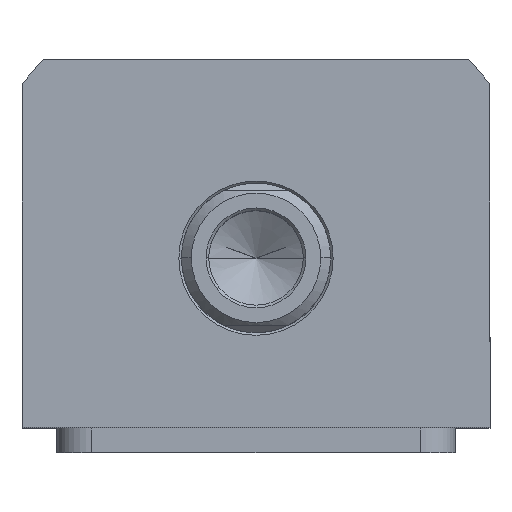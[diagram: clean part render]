
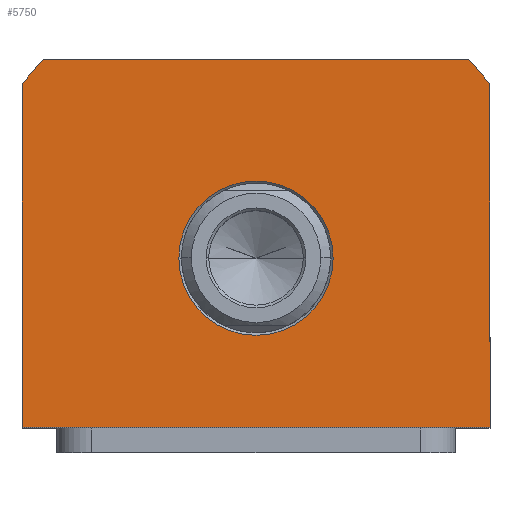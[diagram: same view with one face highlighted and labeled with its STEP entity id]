
A CAD part, top view. The second image highlights one B-rep face of the part: STEP entity #5750.
In plain terms, the highlighted planar face has unit normal (0, 0, 1).
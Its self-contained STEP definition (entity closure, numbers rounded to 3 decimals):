
#26 = ORIENTED_EDGE ( 'NONE', *, *, #6815, .T. ) ;
#76 = AXIS2_PLACEMENT_3D ( 'NONE', #6188, #9987, #8076 ) ;
#110 = EDGE_CURVE ( 'NONE', #7817, #1205, #3073, .T. ) ;
#290 = DIRECTION ( 'NONE',  ( 0., 0., 1. ) ) ;
#314 = EDGE_CURVE ( 'NONE', #504, #3170, #4360, .T. ) ;
#442 = CARTESIAN_POINT ( 'NONE',  ( 0., 0., 50. ) ) ;
#471 = DIRECTION ( 'NONE',  ( 0., -1., 0. ) ) ;
#504 = VERTEX_POINT ( 'NONE', #7616 ) ;
#796 = DIRECTION ( 'NONE',  ( -1., 0., 0. ) ) ;
#1163 = LINE ( 'NONE', #11448, #2314 ) ;
#1205 = VERTEX_POINT ( 'NONE', #10555 ) ;
#1218 = EDGE_CURVE ( 'NONE', #3412, #10783, #1163, .T. ) ;
#1235 = EDGE_CURVE ( 'NONE', #1205, #3412, #11183, .T. ) ;
#1373 = DIRECTION ( 'NONE',  ( 0., 0., 1. ) ) ;
#1384 = VECTOR ( 'NONE', #5519, 1000. ) ;
#1562 = EDGE_CURVE ( 'NONE', #9453, #7817, #7220, .T. ) ;
#2236 = LINE ( 'NONE', #11406, #3990 ) ;
#2314 = VECTOR ( 'NONE', #471, 1000. ) ;
#2913 = CARTESIAN_POINT ( 'NONE',  ( 15.5, 0., 50. ) ) ;
#3073 = LINE ( 'NONE', #4617, #10388 ) ;
#3170 = VERTEX_POINT ( 'NONE', #2913 ) ;
#3338 = CARTESIAN_POINT ( 'NONE',  ( 0., 0., 50. ) ) ;
#3412 = VERTEX_POINT ( 'NONE', #10550 ) ;
#3841 = LINE ( 'NONE', #10945, #1384 ) ;
#3867 = AXIS2_PLACEMENT_3D ( 'NONE', #3338, #8805, #10647 ) ;
#3895 = DIRECTION ( 'NONE',  ( 1., 0., 0. ) ) ;
#3908 = ORIENTED_EDGE ( 'NONE', *, *, #1218, .T. ) ;
#3932 = CARTESIAN_POINT ( 'NONE',  ( 47., -34., 50. ) ) ;
#3933 = AXIS2_PLACEMENT_3D ( 'NONE', #7568, #290, #3895 ) ;
#3971 = ORIENTED_EDGE ( 'NONE', *, *, #1235, .T. ) ;
#3977 = ORIENTED_EDGE ( 'NONE', *, *, #1562, .T. ) ;
#3990 = VECTOR ( 'NONE', #8743, 1000. ) ;
#4360 = CIRCLE ( 'NONE', #7759, 15.5 ) ;
#4570 = CIRCLE ( 'NONE', #3867, 15.5 ) ;
#4583 = AXIS2_PLACEMENT_3D ( 'NONE', #442, #1373, #8870 ) ;
#4617 = CARTESIAN_POINT ( 'NONE',  ( -42.688, 40., 50. ) ) ;
#5205 = EDGE_LOOP ( 'NONE', ( #9219, #10139 ) ) ;
#5519 = DIRECTION ( 'NONE',  ( 0., 1., 0. ) ) ;
#5520 = CARTESIAN_POINT ( 'NONE',  ( 47., 34.832, 50. ) ) ;
#5583 = CARTESIAN_POINT ( 'NONE',  ( 42.688, 40., 50. ) ) ;
#5750 = ADVANCED_FACE ( 'NONE', ( #10460, #7611 ), #10032, .T. ) ;
#5911 = EDGE_CURVE ( 'NONE', #3170, #504, #4570, .T. ) ;
#6188 = CARTESIAN_POINT ( 'NONE',  ( 0., 0., 50. ) ) ;
#6395 = VERTEX_POINT ( 'NONE', #3932 ) ;
#6515 = CARTESIAN_POINT ( 'NONE',  ( 0., 0., 50. ) ) ;
#6815 = EDGE_CURVE ( 'NONE', #6395, #9453, #3841, .T. ) ;
#7220 = CIRCLE ( 'NONE', #4583, 58.5 ) ;
#7568 = CARTESIAN_POINT ( 'NONE',  ( 0., 0., 50. ) ) ;
#7611 = FACE_OUTER_BOUND ( 'NONE', #9979, .T. ) ;
#7616 = CARTESIAN_POINT ( 'NONE',  ( -15.5, 0., 50. ) ) ;
#7759 = AXIS2_PLACEMENT_3D ( 'NONE', #6515, #8378, #9293 ) ;
#7817 = VERTEX_POINT ( 'NONE', #5583 ) ;
#8076 = DIRECTION ( 'NONE',  ( 1., 0., 0. ) ) ;
#8180 = EDGE_CURVE ( 'NONE', #10783, #6395, #2236, .T. ) ;
#8378 = DIRECTION ( 'NONE',  ( 0., 0., -1. ) ) ;
#8674 = ORIENTED_EDGE ( 'NONE', *, *, #8180, .T. ) ;
#8743 = DIRECTION ( 'NONE',  ( 1., 0., 0. ) ) ;
#8805 = DIRECTION ( 'NONE',  ( 0., 0., -1. ) ) ;
#8870 = DIRECTION ( 'NONE',  ( 1., 0., 0. ) ) ;
#9219 = ORIENTED_EDGE ( 'NONE', *, *, #5911, .T. ) ;
#9293 = DIRECTION ( 'NONE',  ( 1., 0., 0. ) ) ;
#9453 = VERTEX_POINT ( 'NONE', #5520 ) ;
#9979 = EDGE_LOOP ( 'NONE', ( #8674, #26, #3977, #10292, #3971, #3908 ) ) ;
#9987 = DIRECTION ( 'NONE',  ( 0., 0., 1. ) ) ;
#10032 = PLANE ( 'NONE',  #3933 ) ;
#10139 = ORIENTED_EDGE ( 'NONE', *, *, #314, .T. ) ;
#10292 = ORIENTED_EDGE ( 'NONE', *, *, #110, .T. ) ;
#10388 = VECTOR ( 'NONE', #796, 1000. ) ;
#10460 = FACE_BOUND ( 'NONE', #5205, .T. ) ;
#10550 = CARTESIAN_POINT ( 'NONE',  ( -47., 34.832, 50. ) ) ;
#10555 = CARTESIAN_POINT ( 'NONE',  ( -42.688, 40., 50. ) ) ;
#10647 = DIRECTION ( 'NONE',  ( 1., 0., 0. ) ) ;
#10783 = VERTEX_POINT ( 'NONE', #11409 ) ;
#10945 = CARTESIAN_POINT ( 'NONE',  ( 47., 34.832, 50. ) ) ;
#11183 = CIRCLE ( 'NONE', #76, 58.5 ) ;
#11406 = CARTESIAN_POINT ( 'NONE',  ( 47., -34., 50. ) ) ;
#11409 = CARTESIAN_POINT ( 'NONE',  ( -47., -34., 50. ) ) ;
#11448 = CARTESIAN_POINT ( 'NONE',  ( -47., -34., 50. ) ) ;
